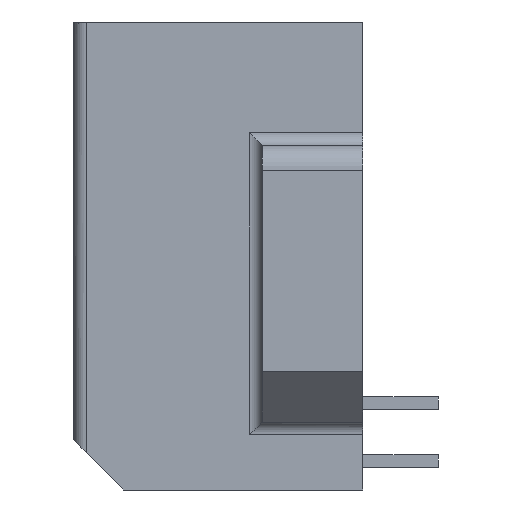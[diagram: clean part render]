
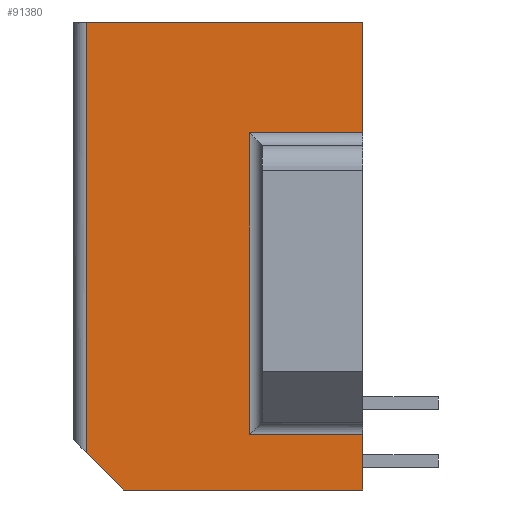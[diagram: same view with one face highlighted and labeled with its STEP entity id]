
A CAD part, left-side view. The second image highlights one B-rep face of the part: STEP entity #91380.
In plain terms, the highlighted planar face has unit normal (-1, 0, 0) as drawn and (1, 0, 0) by its records, which use the part's own axes.
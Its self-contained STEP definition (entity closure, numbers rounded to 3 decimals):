
#89040=CARTESIAN_POINT('',(-142.124,104.356,-10.3));
#89050=VERTEX_POINT('',#89040);
#89080=CARTESIAN_POINT('',(-142.124,104.356,0.));
#89090=DIRECTION('',(0.,0.,1.));
#89100=VECTOR('',#89090,1.);
#89110=LINE('',#89080,#89100);
#89120=CARTESIAN_POINT('',(-142.124,104.356,-14.7));
#89130=VERTEX_POINT('',#89120);
#89140=EDGE_CURVE('',#89130,#89050,#89110,.T.);
#89360=CARTESIAN_POINT('',(-142.124,104.356,3.9));
#89370=VERTEX_POINT('',#89360);
#89400=CARTESIAN_POINT('',(-142.124,104.356,1.7));
#89410=VERTEX_POINT('',#89400);
#89420=EDGE_CURVE('',#89410,#89370,#89110,.T.);
#90630=CARTESIAN_POINT('',(-142.124,108.856,-10.3));
#90640=VERTEX_POINT('',#90630);
#90730=CARTESIAN_POINT('',(-142.124,108.856,1.7));
#90740=VERTEX_POINT('',#90730);
#90770=CARTESIAN_POINT('',(-142.124,108.856,1.7));
#90780=DIRECTION('',(0.,0.,-1.));
#90790=VECTOR('',#90780,1.);
#90800=LINE('',#90770,#90790);
#90810=EDGE_CURVE('',#90740,#90640,#90800,.T.);
#90860=CARTESIAN_POINT('',(-142.124,116.956,1.9));
#90870=DIRECTION('',(1.,-0.,0.));
#90880=DIRECTION('',(0.,0.,-1.));
#90890=AXIS2_PLACEMENT_3D('',#90860,#90870,#90880);
#90900=PLANE('',#90890);
#90910=ORIENTED_EDGE('',*,*,#89140,.F.);
#90920=CARTESIAN_POINT('',(-142.124,108.856,-10.3));
#90930=DIRECTION('',(0.,-1.,0.));
#90940=VECTOR('',#90930,1.);
#90950=LINE('',#90920,#90940);
#90960=EDGE_CURVE('',#90640,#89050,#90950,.T.);
#90970=ORIENTED_EDGE('',*,*,#90960,.T.);
#90980=ORIENTED_EDGE('',*,*,#90810,.T.);
#90990=CARTESIAN_POINT('',(-142.124,108.856,1.7));
#91000=DIRECTION('',(0.,-1.,0.));
#91010=VECTOR('',#91000,1.);
#91020=LINE('',#90990,#91010);
#91030=EDGE_CURVE('',#90740,#89410,#91020,.T.);
#91040=ORIENTED_EDGE('',*,*,#91030,.F.);
#91050=ORIENTED_EDGE('',*,*,#89420,.F.);
#91060=CARTESIAN_POINT('',(-142.124,0.,3.9));
#91070=DIRECTION('',(0.,-1.,0.));
#91080=VECTOR('',#91070,1.);
#91090=LINE('',#91060,#91080);
#91100=CARTESIAN_POINT('',(-142.124,113.856,3.9));
#91110=VERTEX_POINT('',#91100);
#91120=EDGE_CURVE('',#91110,#89370,#91090,.T.);
#91130=ORIENTED_EDGE('',*,*,#91120,.T.);
#91140=CARTESIAN_POINT('',(-142.124,117.756,0.));
#91150=DIRECTION('',(0.,0.707,-0.707));
#91160=VECTOR('',#91150,1.);
#91170=LINE('',#91140,#91160);
#91180=CARTESIAN_POINT('',(-142.124,115.356,2.4));
#91190=VERTEX_POINT('',#91180);
#91200=EDGE_CURVE('',#91110,#91190,#91170,.T.);
#91210=ORIENTED_EDGE('',*,*,#91200,.F.);
#91220=CARTESIAN_POINT('',(-142.124,115.356,2.4))
;
#91230=DIRECTION('',(0.,0.,-1.));
#91240=VECTOR('',#91230,1.);
#91250=LINE('',#91220,#91240);
#91260=CARTESIAN_POINT('',(-142.124,115.356,-14.7));
#91270=VERTEX_POINT('',#91260);
#91280=EDGE_CURVE('',#91190,#91270,#91250,.T.);
#91290=ORIENTED_EDGE('',*,*,#91280,.F.);
#91300=CARTESIAN_POINT('',(-142.124,0.,-14.7));
#91310=DIRECTION('',(0.,-1.,0.));
#91320=VECTOR('',#91310,1.);
#91330=LINE('',#91300,#91320);
#91340=EDGE_CURVE('',#91270,#89130,#91330,.T.);
#91350=ORIENTED_EDGE('',*,*,#91340,.F.);
#91360=EDGE_LOOP('',(#91350,#91290,#91210,#91130,#91050,#91040,#90980,
#90970,#90910));
#91370=FACE_OUTER_BOUND('',#91360,.T.);
#91380=ADVANCED_FACE('',(#91370),#90900,.T.);
